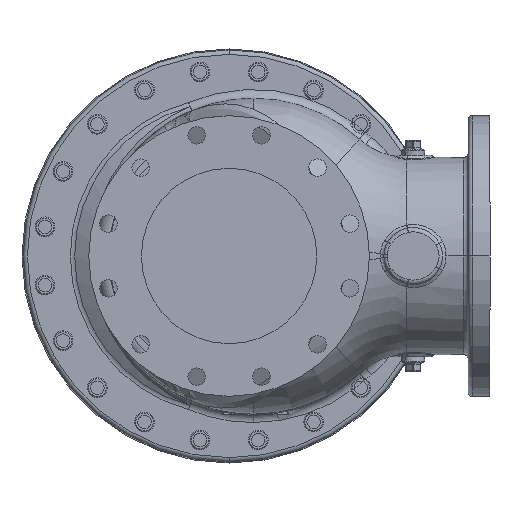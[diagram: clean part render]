
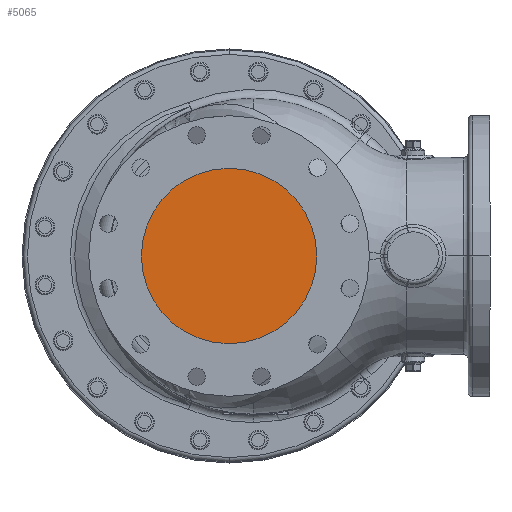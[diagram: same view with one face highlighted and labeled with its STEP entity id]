
A CAD part, front view. The second image highlights one B-rep face of the part: STEP entity #5065.
In plain terms, the highlighted planar face has unit normal (0, -1, 0).
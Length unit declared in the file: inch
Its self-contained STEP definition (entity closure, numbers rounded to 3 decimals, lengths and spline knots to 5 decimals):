
#428 = VERTEX_POINT ( 'NONE', #9301 ) ;
#1544 = DIRECTION ( 'NONE',  ( 0., 1., 0. ) ) ;
#4422 = DIRECTION ( 'NONE',  ( -1., 0., 0. ) ) ;
#5065 = ADVANCED_FACE ( 'NONE', ( #7764 ), #26600, .T. ) ;
#6680 = CIRCLE ( 'NONE', #21979, 5. ) ;
#7355 = VERTEX_POINT ( 'NONE', #31269 ) ;
#7764 = FACE_OUTER_BOUND ( 'NONE', #19241, .T. ) ;
#9301 = CARTESIAN_POINT ( 'NONE',  ( -5., -6.87, 0. ) ) ;
#11170 = CIRCLE ( 'NONE', #36011, 5. ) ;
#12296 = CARTESIAN_POINT ( 'NONE',  ( 5., -6.87, 0. ) ) ;
#12633 = CARTESIAN_POINT ( 'NONE',  ( 0., -6.87, 0. ) ) ;
#14456 = DIRECTION ( 'NONE',  ( 0., 1., 0. ) ) ;
#15174 = DIRECTION ( 'NONE',  ( 0., -1., 0. ) ) ;
#18749 = ORIENTED_EDGE ( 'NONE', *, *, #32689, .F. ) ;
#19241 = EDGE_LOOP ( 'NONE', ( #21874, #18749 ) ) ;
#21874 = ORIENTED_EDGE ( 'NONE', *, *, #31498, .F. ) ;
#21979 = AXIS2_PLACEMENT_3D ( 'NONE', #31494, #14456, #36727 ) ;
#26600 = PLANE ( 'NONE',  #33001 ) ;
#31269 = CARTESIAN_POINT ( 'NONE',  ( 5., -6.87, 0. ) ) ;
#31494 = CARTESIAN_POINT ( 'NONE',  ( 0., -6.87, 0. ) ) ;
#31498 = EDGE_CURVE ( 'NONE', #428, #7355, #11170, .T. ) ;
#32319 = DIRECTION ( 'NONE',  ( 1., 0., 0. ) ) ;
#32689 = EDGE_CURVE ( 'NONE', #7355, #428, #6680, .T. ) ;
#33001 = AXIS2_PLACEMENT_3D ( 'NONE', #12296, #15174, #32319 ) ;
#36011 = AXIS2_PLACEMENT_3D ( 'NONE', #12633, #1544, #4422 ) ;
#36727 = DIRECTION ( 'NONE',  ( -1., 0., 0. ) ) ;
